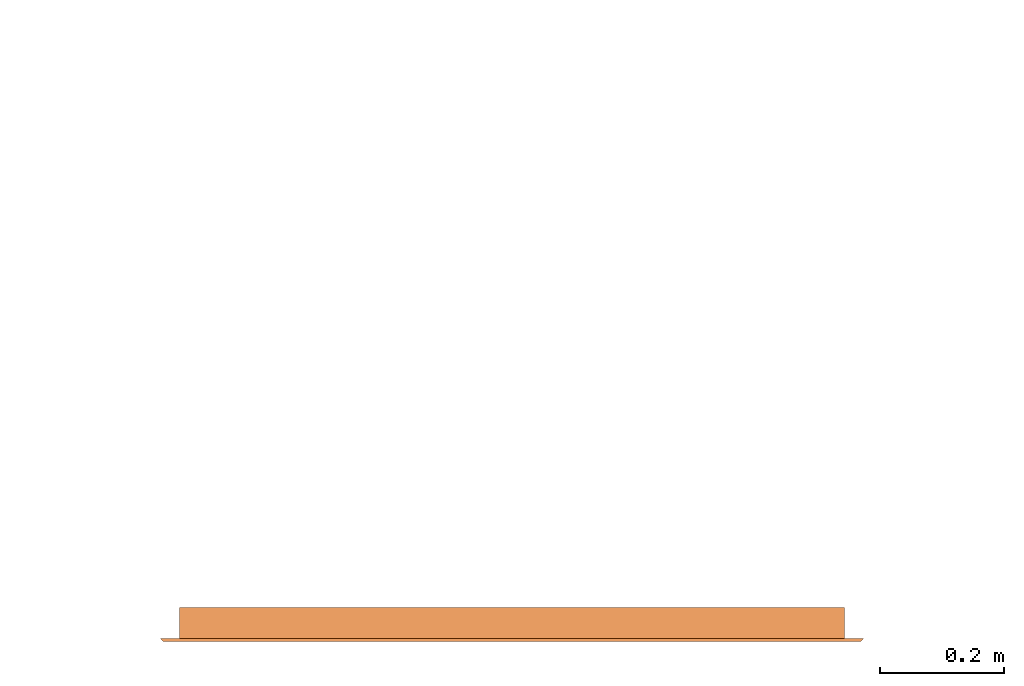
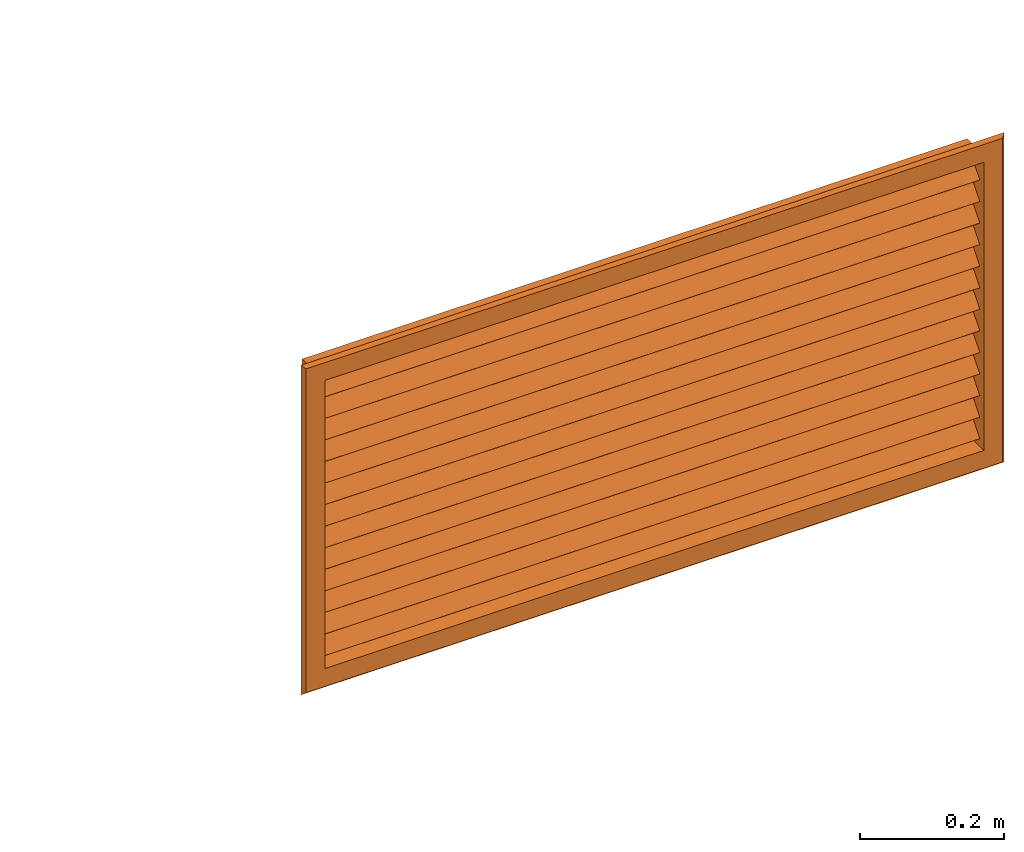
# One storey, part 6 of 6: 1 proxy.
"""IFC2X3 building model written with IfcOpenShell, lengths in metres."""

from ifc_helpers import new_model, entity, si_unit, converted_unit, derived_unit, direction, frame, origin, place, context, subcontext, project, spatial, faceted_brep, source, transform, mapped, material, material_list, type_object, type_shapes, element, save


model = new_model("IFC2X3")

# Units and contexts
model_context = context("Model", 3, precision=1e-05, world=origin(), true_north=direction((6.12303176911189e-17, 1.0)))
body_context = subcontext(model_context, "Body", "Model", "MODEL_VIEW")
ifc_project = project(units=[si_unit("LENGTHUNIT", "METRE"), si_unit("AREAUNIT", "SQUARE_METRE"), si_unit("VOLUMEUNIT", "CUBIC_METRE"), converted_unit("PLANEANGLEUNIT", "DEGREE", entity("IfcRatioMeasure", 0.0174532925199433), si_unit("PLANEANGLEUNIT", "RADIAN"), dimensions=[0, 0, 0, 0, 0, 0, 0]), si_unit("MASSUNIT", "GRAM", prefix="KILO"), derived_unit("MASSDENSITYUNIT", [(si_unit("MASSUNIT", "GRAM", prefix="KILO"), 1), (si_unit("LENGTHUNIT", "METRE"), -3)]), derived_unit("MOMENTOFINERTIAUNIT", [(si_unit("LENGTHUNIT", "METRE"), 4)]), si_unit("TIMEUNIT", "SECOND"), si_unit("FREQUENCYUNIT", "HERTZ"), si_unit("THERMODYNAMICTEMPERATUREUNIT", "DEGREE_CELSIUS"), derived_unit("THERMALTRANSMITTANCEUNIT", [(si_unit("MASSUNIT", "GRAM", prefix="KILO"), 1), (si_unit("THERMODYNAMICTEMPERATUREUNIT", "KELVIN"), -1), (si_unit("TIMEUNIT", "SECOND"), -3)]), derived_unit("VOLUMETRICFLOWRATEUNIT", [(si_unit("LENGTHUNIT", "METRE"), 3), (si_unit("TIMEUNIT", "SECOND"), -1)]), si_unit("ELECTRICCURRENTUNIT", "AMPERE"), si_unit("ELECTRICVOLTAGEUNIT", "VOLT"), si_unit("POWERUNIT", "WATT"), si_unit("FORCEUNIT", "NEWTON", prefix="KILO"), si_unit("ILLUMINANCEUNIT", "LUX"), si_unit("LUMINOUSFLUXUNIT", "LUMEN"), si_unit("LUMINOUSINTENSITYUNIT", "CANDELA"), derived_unit("USERDEFINED", [(si_unit("MASSUNIT", "GRAM", prefix="KILO"), -1), (si_unit("LENGTHUNIT", "METRE"), -2), (si_unit("TIMEUNIT", "SECOND"), 3), (si_unit("LUMINOUSFLUXUNIT", "LUMEN"), 1)]), derived_unit("LINEARVELOCITYUNIT", [(si_unit("LENGTHUNIT", "METRE"), 1), (si_unit("TIMEUNIT", "SECOND"), -1)]), si_unit("PRESSUREUNIT", "PASCAL"), derived_unit("USERDEFINED", [(si_unit("LENGTHUNIT", "METRE"), -2), (si_unit("MASSUNIT", "GRAM", prefix="KILO"), 1), (si_unit("TIMEUNIT", "SECOND"), -2)]), derived_unit("LINEARFORCEUNIT", [(si_unit("MASSUNIT", "GRAM", prefix="KILO"), 1), (si_unit("LENGTHUNIT", "METRE"), 1), (si_unit("TIMEUNIT", "SECOND"), -2), (si_unit("LENGTHUNIT", "METRE"), -1)]), derived_unit("PLANARFORCEUNIT", [(si_unit("MASSUNIT", "GRAM", prefix="KILO"), 1), (si_unit("LENGTHUNIT", "METRE"), 1), (si_unit("TIMEUNIT", "SECOND"), -2), (si_unit("LENGTHUNIT", "METRE"), -2)])], contexts=[model_context])

# Site, building, storey
site_placement = place(None, origin())
site = spatial("IfcSite", under=ifc_project, at=site_placement, Name="Default", CompositionType="ELEMENT")
building_placement = place(site_placement, origin())
building = spatial("IfcBuilding", under=site, at=building_placement, CompositionType="ELEMENT")
storey_placement = place(building_placement, frame((0.0, 0.0, 2.31330827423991)))
storey = spatial("IfcBuildingStorey", under=building, at=storey_placement, Name="Niveau 00 - 03", CompositionType="ELEMENT", Elevation=2.31330827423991)

# Proxy
ifc_material = material(Name="Acier - Galvanisé")
ifc_material_list = material_list([ifc_material, ifc_material])
building_element_proxy_type = type_object("IfcBuildingElementProxyType", Name="Grille d'aération - Mur:Type A", PredefinedType="NOTDEFINED", material=ifc_material_list)
shared_shape = source(origin(), body_context, "Body", "Brep", [
    faceted_brep([(1.09528475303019, 0.0142884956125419, 0.112593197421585), (1.09528475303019, 0.0400000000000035, 0.0819514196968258), (1.09528475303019, 0.0438302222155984, 0.0851653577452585), (1.09528475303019, 0.0181187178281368, 0.115807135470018), (0.0352847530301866, 0.0142884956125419, 0.112593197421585), (0.0352847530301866, 0.0181187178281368, 0.115807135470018), (0.0352847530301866, 0.0438302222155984, 0.0851653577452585), (0.0352847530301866, 0.0400000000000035, 0.0819514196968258)], [[[0, 1, 2, 3]], [[4, 5, 6, 7]], [[1, 0, 4, 7]], [[2, 1, 7, 6]], [[3, 2, 6, 5]], [[0, 3, 5, 4]]]),
    faceted_brep([(1.09528475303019, 0.0142884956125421, 0.149259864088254), (1.09528475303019, 0.0400000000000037, 0.118618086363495), (1.09528475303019, 0.0438302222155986, 0.121832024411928), (1.09528475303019, 0.018118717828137, 0.152473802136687), (0.0352847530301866, 0.0142884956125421, 0.149259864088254), (0.0352847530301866, 0.018118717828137, 0.152473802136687), (0.0352847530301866, 0.0438302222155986, 0.121832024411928), (0.0352847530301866, 0.0400000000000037, 0.118618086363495)], [[[0, 1, 2, 3]], [[4, 5, 6, 7]], [[1, 0, 4, 7]], [[2, 1, 7, 6]], [[3, 2, 6, 5]], [[0, 3, 5, 4]]]),
    faceted_brep([(1.09528475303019, 0.0142884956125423, 0.185926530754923), (1.09528475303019, 0.0400000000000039, 0.155284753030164), (1.09528475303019, 0.0438302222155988, 0.158498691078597), (1.09528475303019, 0.0181187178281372, 0.189140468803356), (0.0352847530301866, 0.0142884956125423, 0.185926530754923), (0.0352847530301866, 0.0181187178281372, 0.189140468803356), (0.0352847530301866, 0.0438302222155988, 0.158498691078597), (0.0352847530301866, 0.0400000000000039, 0.155284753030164)], [[[0, 1, 2, 3]], [[4, 5, 6, 7]], [[1, 0, 4, 7]], [[2, 1, 7, 6]], [[3, 2, 6, 5]], [[0, 3, 5, 4]]]),
    faceted_brep([(1.09528475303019, 0.0142884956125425, 0.222593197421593), (1.09528475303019, 0.0400000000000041, 0.191951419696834), (1.09528475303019, 0.0438302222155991, 0.195165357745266), (1.09528475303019, 0.0181187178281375, 0.225807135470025), (0.0352847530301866, 0.0142884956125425, 0.222593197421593), (0.0352847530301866, 0.0181187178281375, 0.225807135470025), (0.0352847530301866, 0.0438302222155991, 0.195165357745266), (0.0352847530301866, 0.0400000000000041, 0.191951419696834)], [[[0, 1, 2, 3]], [[4, 5, 6, 7]], [[1, 0, 4, 7]], [[2, 1, 7, 6]], [[3, 2, 6, 5]], [[0, 3, 5, 4]]]),
    faceted_brep([(1.09528475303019, 0.0142884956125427, 0.259259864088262), (1.09528475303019, 0.0400000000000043, 0.228618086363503), (1.09528475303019, 0.0438302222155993, 0.231832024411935), (1.09528475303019, 0.0181187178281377, 0.262473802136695), (0.0352847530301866, 0.0142884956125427, 0.259259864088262), (0.0352847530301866, 0.0181187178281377, 0.262473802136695), (0.0352847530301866, 0.0438302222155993, 0.231832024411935), (0.0352847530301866, 0.0400000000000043, 0.228618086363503)], [[[0, 1, 2, 3]], [[4, 5, 6, 7]], [[1, 0, 4, 7]], [[2, 1, 7, 6]], [[3, 2, 6, 5]], [[0, 3, 5, 4]]]),
    faceted_brep([(1.09528475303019, 0.0142884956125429, 0.295926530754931), (1.09528475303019, 0.0400000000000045, 0.265284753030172), (1.09528475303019, 0.0438302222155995, 0.268498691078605), (1.09528475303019, 0.0181187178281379, 0.299140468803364), (0.0352847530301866, 0.0142884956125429, 0.295926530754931), (0.0352847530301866, 0.0181187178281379, 0.299140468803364), (0.0352847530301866, 0.0438302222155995, 0.268498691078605), (0.0352847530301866, 0.0400000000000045, 0.265284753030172)], [[[0, 1, 2, 3]], [[4, 5, 6, 7]], [[1, 0, 4, 7]], [[2, 1, 7, 6]], [[3, 2, 6, 5]], [[0, 3, 5, 4]]]),
    faceted_brep([(1.09528475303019, 0.0142884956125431, 0.3325931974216), (1.09528475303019, 0.0400000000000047, 0.301951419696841), (1.09528475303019, 0.0438302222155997, 0.305165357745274), (1.09528475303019, 0.0181187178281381, 0.335807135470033), (0.0352847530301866, 0.0142884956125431, 0.3325931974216), (0.0352847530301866, 0.0181187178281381, 0.335807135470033), (0.0352847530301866, 0.0438302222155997, 0.305165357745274), (0.0352847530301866, 0.0400000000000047, 0.301951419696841)], [[[0, 1, 2, 3]], [[4, 5, 6, 7]], [[1, 0, 4, 7]], [[2, 1, 7, 6]], [[3, 2, 6, 5]], [[0, 3, 5, 4]]]),
    faceted_brep([(1.09528475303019, 0.0142884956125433, 0.369259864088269), (1.09528475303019, 0.0400000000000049, 0.33861808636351), (1.09528475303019, 0.0438302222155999, 0.341832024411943), (1.09528475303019, 0.0181187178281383, 0.372473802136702), (0.0352847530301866, 0.0142884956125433, 0.369259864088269), (0.0352847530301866, 0.0181187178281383, 0.372473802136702), (0.0352847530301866, 0.0438302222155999, 0.341832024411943), (0.0352847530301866, 0.0400000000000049, 0.33861808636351)], [[[0, 1, 2, 3]], [[4, 5, 6, 7]], [[1, 0, 4, 7]], [[2, 1, 7, 6]], [[3, 2, 6, 5]], [[0, 3, 5, 4]]]),
    faceted_brep([(1.09528475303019, 0.0142884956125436, 0.405926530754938), (1.09528475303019, 0.0400000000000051, 0.37528475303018), (1.09528475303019, 0.0438302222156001, 0.378498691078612), (1.09528475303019, 0.0181187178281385, 0.409140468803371), (0.0352847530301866, 0.0142884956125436, 0.405926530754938), (0.0352847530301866, 0.0181187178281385, 0.409140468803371), (0.0352847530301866, 0.0438302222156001, 0.378498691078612), (0.0352847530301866, 0.0400000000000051, 0.37528475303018)], [[[0, 1, 2, 3]], [[4, 5, 6, 7]], [[1, 0, 4, 7]], [[2, 1, 7, 6]], [[3, 2, 6, 5]], [[0, 3, 5, 4]]]),
    faceted_brep([(1.09528475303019, 0.0142884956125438, 0.442593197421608), (1.09528475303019, 0.0400000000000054, 0.411951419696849), (1.09528475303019, 0.0438302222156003, 0.415165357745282), (1.09528475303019, 0.0181187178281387, 0.44580713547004), (0.0352847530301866, 0.0142884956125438, 0.442593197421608), (0.0352847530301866, 0.0181187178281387, 0.44580713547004), (0.0352847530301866, 0.0438302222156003, 0.415165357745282), (0.0352847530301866, 0.0400000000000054, 0.411951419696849)], [[[0, 1, 2, 3]], [[4, 5, 6, 7]], [[1, 0, 4, 7]], [[2, 1, 7, 6]], [[3, 2, 6, 5]], [[0, 3, 5, 4]]]),
    faceted_brep([(1.09528475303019, 0.014288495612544, 0.479259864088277), (1.09528475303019, 0.0400000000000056, 0.448618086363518), (1.09528475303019, 0.0438302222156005, 0.451832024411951), (1.09528475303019, 0.0181187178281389, 0.482473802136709), (0.0352847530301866, 0.014288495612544, 0.479259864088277), (0.0352847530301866, 0.0181187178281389, 0.482473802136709), (0.0352847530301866, 0.0438302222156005, 0.451832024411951), (0.0352847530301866, 0.0400000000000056, 0.448618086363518)], [[[0, 1, 2, 3]], [[4, 5, 6, 7]], [[1, 0, 4, 7]], [[2, 1, 7, 6]], [[3, 2, 6, 5]], [[0, 3, 5, 4]]]),
    faceted_brep([(1.09528475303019, 0.0142884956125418, 0.0759265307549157), (1.09528475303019, 0.0400000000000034, 0.0452847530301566), (1.09528475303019, 0.0438302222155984, 0.0484986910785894), (1.09528475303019, 0.0181187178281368, 0.0791404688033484), (0.0352847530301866, 0.0142884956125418, 0.0759265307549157), (0.0352847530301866, 0.0181187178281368, 0.0791404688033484), (0.0352847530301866, 0.0438302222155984, 0.0484986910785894), (0.0352847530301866, 0.0400000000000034, 0.0452847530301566)], [[[0, 1, 2, 3]], [[4, 5, 6, 7]], [[1, 0, 4, 7]], [[2, 1, 7, 6]], [[3, 2, 6, 5]], [[0, 3, 5, 4]]]),
    faceted_brep([(1.09528475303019, 0.0142884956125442, 0.515926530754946), (1.09528475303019, 0.0400000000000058, 0.485284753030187), (1.09528475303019, 0.0438302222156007, 0.48849869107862), (1.09528475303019, 0.0181187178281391, 0.519140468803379), (0.035284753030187, 0.0142884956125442, 0.515926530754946), (0.035284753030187, 0.0181187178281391, 0.519140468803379), (0.035284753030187, 0.0438302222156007, 0.48849869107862), (0.035284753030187, 0.0400000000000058, 0.485284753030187)], [[[0, 1, 2, 3]], [[4, 5, 6, 7]], [[1, 0, 4, 7]], [[2, 1, 7, 6]], [[3, 2, 6, 5]], [[0, 3, 5, 4]]]),
    faceted_brep([(0.0302847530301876, 0.0, 0.530284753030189), (0.0302847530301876, 0.05, 0.53028475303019), (0.0302847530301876, 0.05, 0.0302847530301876), (0.0302847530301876, 0.0, 0.0302847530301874), (0.0352847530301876, 0.055, 0.525284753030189), (0.0352847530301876, 0.0, 0.52528475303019), (0.0352847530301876, 0.0, 0.0352847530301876), (0.0352847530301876, 0.055, 0.0352847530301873), (0.0, 0.0499999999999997, 0.560569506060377), (0.00499999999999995, 0.055, 0.555569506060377), (0.00500000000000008, 0.0550000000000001, 0.00499999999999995), (0.0, 0.05, 0.0), (1.10028475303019, 0.05, 0.0302847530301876), (1.10028475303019, 0.0, 0.0302847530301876), (1.09528475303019, 0.0, 0.0352847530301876), (1.09528475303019, 0.055, 0.0352847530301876), (1.12556950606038, 0.0550000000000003, 0.00500000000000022), (1.13056950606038, 0.05, 0.0), (1.10028475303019, 0.05, 0.530284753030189), (1.10028475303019, 0.0, 0.530284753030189), (1.09528475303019, 0.0, 0.525284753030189), (1.09528475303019, 0.055, 0.525284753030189), (1.12556950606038, 0.055, 0.555569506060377), (1.13056950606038, 0.05, 0.560569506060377)], [[[0, 1, 2, 3]], [[4, 5, 6, 7]], [[8, 9, 10, 11]], [[3, 2, 12, 13]], [[7, 6, 14, 15]], [[11, 10, 16, 17]], [[13, 12, 18, 19]], [[15, 14, 20, 21]], [[17, 16, 22, 23]], [[19, 18, 1, 0]], [[3, 13, 19, 0], [5, 20, 14, 6]], [[21, 20, 5, 4]], [[7, 15, 21, 4], [9, 22, 16, 10]], [[23, 22, 9, 8]], [[11, 17, 23, 8], [1, 18, 12, 2]]], outer=[[True], [True], [True], [True], [True], [True], [True], [True], [True], [True], [True, False], [True], [False, True], [True], [True, False]]),
])
type_shapes(building_element_proxy_type, [shared_shape])
proxy_placement = place(storey_placement, frame((-4.57958633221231, -34.4990543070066, 0.269715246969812), z_axis=(0.0, 0.0, 1.0), x_axis=(-1.0, 0.0, 0.0)))
element("IfcBuildingElementProxy", 1, at=proxy_placement, inside=storey, type_object=building_element_proxy_type, material=ifc_material, Name="Grille d'aération - Mur:Type A", ObjectType="Grille d'aération - Mur:Type A", context=body_context, shape_type="MappedRepresentation", body=[
    mapped(shared_shape, transform((0.0, 0.0, 0.0), scale=1.0)),
])

save(model, "model.ifc")
